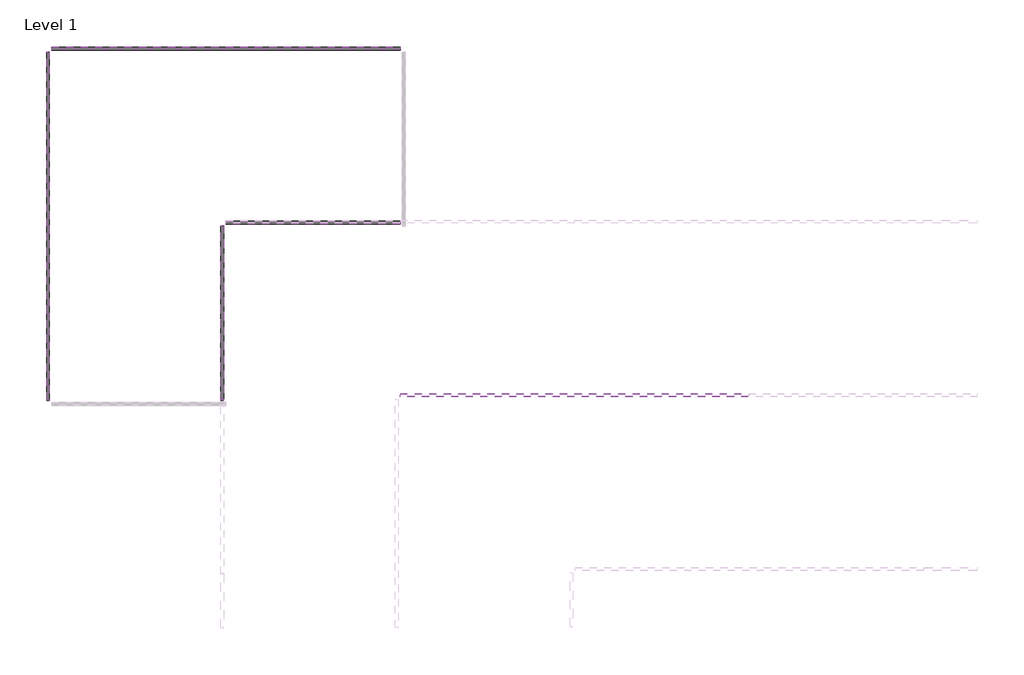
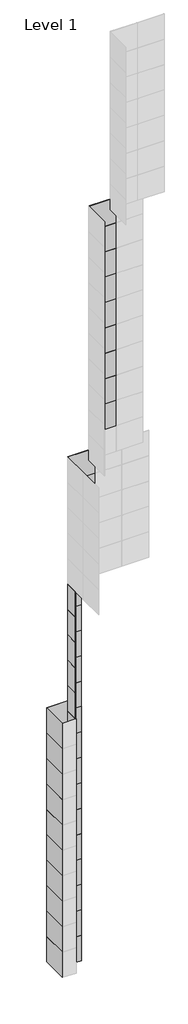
# One storey, part 8 of 15: 134 plates.
"""IFC4 building model written with IfcOpenShell, lengths in millimetres."""

from ifc_helpers import new_model, si_unit, origin, place, context, project, spatial, transform, mapped, element, save
from components import system_panel_glazed_9c75bc08, system_panel_glazed_0a0842ec, system_panel_glazed_aa64d645

model = new_model("IFC4")

# Units and contexts
model_context = context("Model", 3, world=origin())
ifc_project = project(units=[si_unit("LENGTHUNIT", "METRE", prefix="MILLI")], contexts=[model_context])

# Site, building, storey
site = spatial("IfcSite", under=ifc_project)
building = spatial("IfcBuilding", under=site)
storey = spatial("IfcBuildingStorey", under=building, Name="Level 1", Elevation=0.0)

# Plates
placement = place(None, origin())
system_panel_glazed_shape = system_panel_glazed_9c75bc08(model_context)
element("IfcPlate", 1, ObjectType="System Panel : Glazed", at=placement, inside=storey, context=model_context, shape_type="MappedRepresentation", body=[
    mapped(system_panel_glazed_shape, transform((-20839.4161695, 8735.9495511, 0.0), x_axis=(0.0, -1.0, 0.0), y_axis=(1.0, 0.0, 0.0), z_axis=(0.0, 0.0, 1.0))),
])
element("IfcPlate", 2, ObjectType="System Panel : Glazed", at=placement, inside=storey, context=model_context, shape_type="MappedRepresentation", body=[
    mapped(system_panel_glazed_shape, transform((-20839.4161695, 8735.9495511, 3048.0), x_axis=(0.0, -1.0, 0.0), y_axis=(1.0, 0.0, 0.0), z_axis=(0.0, 0.0, 1.0))),
])
element("IfcPlate", 3, ObjectType="System Panel : Glazed", at=placement, inside=storey, context=model_context, shape_type="MappedRepresentation", body=[
    mapped(system_panel_glazed_shape, transform((-20839.4161695, 8735.9495511, 6096.0), x_axis=(0.0, -1.0, 0.0), y_axis=(1.0, 0.0, 0.0), z_axis=(0.0, 0.0, 1.0))),
])
element("IfcPlate", 4, ObjectType="System Panel : Glazed", at=placement, inside=storey, context=model_context, shape_type="MappedRepresentation", body=[
    mapped(system_panel_glazed_shape, transform((-20839.4161695, 8735.9495511, 9144.0), x_axis=(0.0, -1.0, 0.0), y_axis=(1.0, 0.0, 0.0), z_axis=(0.0, 0.0, 1.0))),
])
element("IfcPlate", 5, ObjectType="System Panel : Glazed", at=placement, inside=storey, context=model_context, shape_type="MappedRepresentation", body=[
    mapped(system_panel_glazed_shape, transform((-20839.4161695, 8735.9495511, 12192.0), x_axis=(0.0, -1.0, 0.0), y_axis=(1.0, 0.0, 0.0), z_axis=(0.0, 0.0, 1.0))),
])
element("IfcPlate", 6, ObjectType="System Panel : Glazed", at=placement, inside=storey, context=model_context, shape_type="MappedRepresentation", body=[
    mapped(system_panel_glazed_shape, transform((-20839.4161695, 8735.9495511, 15240.0), x_axis=(0.0, -1.0, 0.0), y_axis=(1.0, 0.0, 0.0), z_axis=(0.0, 0.0, 1.0))),
])
element("IfcPlate", 7, ObjectType="System Panel : Glazed", at=placement, inside=storey, context=model_context, shape_type="MappedRepresentation", body=[
    mapped(system_panel_glazed_shape, transform((-20839.4161695, 8735.9495511, 18288.0), x_axis=(0.0, -1.0, 0.0), y_axis=(1.0, 0.0, 0.0), z_axis=(0.0, 0.0, 1.0))),
])
element("IfcPlate", 8, ObjectType="System Panel : Glazed", at=placement, inside=storey, context=model_context, shape_type="MappedRepresentation", body=[
    mapped(system_panel_glazed_shape, transform((-20839.4161695, 8735.9495511, 21336.0), x_axis=(0.0, -1.0, 0.0), y_axis=(1.0, 0.0, 0.0), z_axis=(0.0, 0.0, 1.0))),
])
element("IfcPlate", 9, ObjectType="System Panel : Glazed", at=placement, inside=storey, context=model_context, shape_type="MappedRepresentation", body=[
    mapped(system_panel_glazed_shape, transform((-20839.4161695, 8735.9495511, 24384.0), x_axis=(0.0, -1.0, 0.0), y_axis=(1.0, 0.0, 0.0), z_axis=(0.0, 0.0, 1.0))),
])
element("IfcPlate", 10, ObjectType="System Panel : Glazed", at=placement, inside=storey, context=model_context, shape_type="MappedRepresentation", body=[
    mapped(system_panel_glazed_shape, transform((-20839.4161695, 8735.9495511, 27432.0), x_axis=(0.0, -1.0, 0.0), y_axis=(1.0, 0.0, 0.0), z_axis=(0.0, 0.0, 1.0))),
])
element("IfcPlate", 11, ObjectType="System Panel : Glazed", at=placement, inside=storey, context=model_context, shape_type="MappedRepresentation", body=[
    mapped(system_panel_glazed_shape, transform((-20839.4161695, 8735.9495511, 30480.0), x_axis=(0.0, -1.0, 0.0), y_axis=(1.0, 0.0, 0.0), z_axis=(0.0, 0.0, 1.0))),
])
element("IfcPlate", 12, ObjectType="System Panel : Glazed", at=placement, inside=storey, context=model_context, shape_type="MappedRepresentation", body=[
    mapped(system_panel_glazed_shape, transform((-20839.4161695, 8735.9495511, 33528.0), x_axis=(0.0, -1.0, 0.0), y_axis=(1.0, 0.0, 0.0), z_axis=(0.0, 0.0, 1.0))),
])
element("IfcPlate", 13, ObjectType="System Panel : Glazed", at=placement, inside=storey, context=model_context, shape_type="MappedRepresentation", body=[
    mapped(system_panel_glazed_shape, transform((-20839.4161695, 8735.9495511, 36576.0), x_axis=(0.0, -1.0, 0.0), y_axis=(1.0, 0.0, 0.0), z_axis=(0.0, 0.0, 1.0))),
])
element("IfcPlate", 14, ObjectType="System Panel : Glazed", at=placement, inside=storey, context=model_context, shape_type="MappedRepresentation", body=[
    mapped(system_panel_glazed_shape, transform((-20839.4161695, 8735.9495511, 39624.0), x_axis=(0.0, -1.0, 0.0), y_axis=(1.0, 0.0, 0.0), z_axis=(0.0, 0.0, 1.0))),
])
element("IfcPlate", 15, ObjectType="System Panel : Glazed", at=placement, inside=storey, context=model_context, shape_type="MappedRepresentation", body=[
    mapped(system_panel_glazed_shape, transform((-20839.4161695, 8735.9495511, 42672.0), x_axis=(0.0, -1.0, 0.0), y_axis=(1.0, 0.0, 0.0), z_axis=(0.0, 0.0, 1.0))),
])
element("IfcPlate", 16, ObjectType="System Panel : Glazed", at=placement, inside=storey, context=model_context, shape_type="MappedRepresentation", body=[
    mapped(system_panel_glazed_shape, transform((-20077.4161695, 9497.9495511, 0.0), x_axis=(-1.0, 0.0, 0.0), y_axis=(0.0, -1.0, 0.0), z_axis=(0.0, 0.0, 1.0))),
])
element("IfcPlate", 17, ObjectType="System Panel : Glazed", at=placement, inside=storey, context=model_context, shape_type="MappedRepresentation", body=[
    mapped(system_panel_glazed_shape, transform((-20077.4161695, 9497.9495511, 3048.0), x_axis=(-1.0, 0.0, 0.0), y_axis=(0.0, -1.0, 0.0), z_axis=(0.0, 0.0, 1.0))),
])
element("IfcPlate", 18, ObjectType="System Panel : Glazed", at=placement, inside=storey, context=model_context, shape_type="MappedRepresentation", body=[
    mapped(system_panel_glazed_shape, transform((-20077.4161695, 9497.9495511, 6096.0), x_axis=(-1.0, 0.0, 0.0), y_axis=(0.0, -1.0, 0.0), z_axis=(0.0, 0.0, 1.0))),
])
element("IfcPlate", 19, ObjectType="System Panel : Glazed", at=placement, inside=storey, context=model_context, shape_type="MappedRepresentation", body=[
    mapped(system_panel_glazed_shape, transform((-20077.4161695, 9497.9495511, 9144.0), x_axis=(-1.0, 0.0, 0.0), y_axis=(0.0, -1.0, 0.0), z_axis=(0.0, 0.0, 1.0))),
])
element("IfcPlate", 20, ObjectType="System Panel : Glazed", at=placement, inside=storey, context=model_context, shape_type="MappedRepresentation", body=[
    mapped(system_panel_glazed_shape, transform((-20077.4161695, 9497.9495511, 12192.0), x_axis=(-1.0, 0.0, 0.0), y_axis=(0.0, -1.0, 0.0), z_axis=(0.0, 0.0, 1.0))),
])
element("IfcPlate", 21, ObjectType="System Panel : Glazed", at=placement, inside=storey, context=model_context, shape_type="MappedRepresentation", body=[
    mapped(system_panel_glazed_shape, transform((-20077.4161695, 9497.9495511, 15240.0), x_axis=(-1.0, 0.0, 0.0), y_axis=(0.0, -1.0, 0.0), z_axis=(0.0, 0.0, 1.0))),
])
element("IfcPlate", 22, ObjectType="System Panel : Glazed", at=placement, inside=storey, context=model_context, shape_type="MappedRepresentation", body=[
    mapped(system_panel_glazed_shape, transform((-20077.4161695, 9497.9495511, 18288.0), x_axis=(-1.0, 0.0, 0.0), y_axis=(0.0, -1.0, 0.0), z_axis=(0.0, 0.0, 1.0))),
])
element("IfcPlate", 23, ObjectType="System Panel : Glazed", at=placement, inside=storey, context=model_context, shape_type="MappedRepresentation", body=[
    mapped(system_panel_glazed_shape, transform((-20077.4161695, 9497.9495511, 21336.0), x_axis=(-1.0, 0.0, 0.0), y_axis=(0.0, -1.0, 0.0), z_axis=(0.0, 0.0, 1.0))),
])
element("IfcPlate", 24, ObjectType="System Panel : Glazed", at=placement, inside=storey, context=model_context, shape_type="MappedRepresentation", body=[
    mapped(system_panel_glazed_shape, transform((-20077.4161695, 9497.9495511, 24384.0), x_axis=(-1.0, 0.0, 0.0), y_axis=(0.0, -1.0, 0.0), z_axis=(0.0, 0.0, 1.0))),
])
element("IfcPlate", 25, ObjectType="System Panel : Glazed", at=placement, inside=storey, context=model_context, shape_type="MappedRepresentation", body=[
    mapped(system_panel_glazed_shape, transform((-20077.4161695, 9497.9495511, 27432.0), x_axis=(-1.0, 0.0, 0.0), y_axis=(0.0, -1.0, 0.0), z_axis=(0.0, 0.0, 1.0))),
])
element("IfcPlate", 26, ObjectType="System Panel : Glazed", at=placement, inside=storey, context=model_context, shape_type="MappedRepresentation", body=[
    mapped(system_panel_glazed_shape, transform((-20077.4161695, 9497.9495511, 30480.0), x_axis=(-1.0, 0.0, 0.0), y_axis=(0.0, -1.0, 0.0), z_axis=(0.0, 0.0, 1.0))),
])
element("IfcPlate", 27, ObjectType="System Panel : Glazed", at=placement, inside=storey, context=model_context, shape_type="MappedRepresentation", body=[
    mapped(system_panel_glazed_shape, transform((-20077.4161695, 9497.9495511, 33528.0), x_axis=(-1.0, 0.0, 0.0), y_axis=(0.0, -1.0, 0.0), z_axis=(0.0, 0.0, 1.0))),
])
element("IfcPlate", 28, ObjectType="System Panel : Glazed", at=placement, inside=storey, context=model_context, shape_type="MappedRepresentation", body=[
    mapped(system_panel_glazed_shape, transform((-20077.4161695, 9497.9495511, 36576.0), x_axis=(-1.0, 0.0, 0.0), y_axis=(0.0, -1.0, 0.0), z_axis=(0.0, 0.0, 1.0))),
])
element("IfcPlate", 29, ObjectType="System Panel : Glazed", at=placement, inside=storey, context=model_context, shape_type="MappedRepresentation", body=[
    mapped(system_panel_glazed_shape, transform((-20077.4161695, 9497.9495511, 39624.0), x_axis=(-1.0, 0.0, 0.0), y_axis=(0.0, -1.0, 0.0), z_axis=(0.0, 0.0, 1.0))),
])
element("IfcPlate", 30, ObjectType="System Panel : Glazed", at=placement, inside=storey, context=model_context, shape_type="MappedRepresentation", body=[
    mapped(system_panel_glazed_shape, transform((-20077.4161695, 9497.9495511, 42672.0), x_axis=(-1.0, 0.0, 0.0), y_axis=(0.0, -1.0, 0.0), z_axis=(0.0, 0.0, 1.0))),
])
element("IfcPlate", 31, ObjectType="System Panel : Glazed", at=placement, inside=storey, context=model_context, shape_type="MappedRepresentation", body=[
    mapped(system_panel_glazed_shape, transform((-20077.4161695, 9497.9495511, 0.0), x_axis=(-1.0, 0.0, 0.0), y_axis=(0.0, -1.0, 0.0), z_axis=(0.0, 0.0, 1.0))),
])
element("IfcPlate", 32, ObjectType="System Panel : Glazed", at=placement, inside=storey, context=model_context, shape_type="MappedRepresentation", body=[
    mapped(system_panel_glazed_shape, transform((-20077.4161695, 9497.9495511, 3048.0), x_axis=(-1.0, 0.0, 0.0), y_axis=(0.0, -1.0, 0.0), z_axis=(0.0, 0.0, 1.0))),
])
element("IfcPlate", 33, ObjectType="System Panel : Glazed", at=placement, inside=storey, context=model_context, shape_type="MappedRepresentation", body=[
    mapped(system_panel_glazed_shape, transform((-20077.4161695, 9497.9495511, 6096.0), x_axis=(-1.0, 0.0, 0.0), y_axis=(0.0, -1.0, 0.0), z_axis=(0.0, 0.0, 1.0))),
])
element("IfcPlate", 34, ObjectType="System Panel : Glazed", at=placement, inside=storey, context=model_context, shape_type="MappedRepresentation", body=[
    mapped(system_panel_glazed_shape, transform((-20077.4161695, 9497.9495511, 9144.0), x_axis=(-1.0, 0.0, 0.0), y_axis=(0.0, -1.0, 0.0), z_axis=(0.0, 0.0, 1.0))),
])
element("IfcPlate", 35, ObjectType="System Panel : Glazed", at=placement, inside=storey, context=model_context, shape_type="MappedRepresentation", body=[
    mapped(system_panel_glazed_shape, transform((-20077.4161695, 9497.9495511, 12192.0), x_axis=(-1.0, 0.0, 0.0), y_axis=(0.0, -1.0, 0.0), z_axis=(0.0, 0.0, 1.0))),
])
element("IfcPlate", 36, ObjectType="System Panel : Glazed", at=placement, inside=storey, context=model_context, shape_type="MappedRepresentation", body=[
    mapped(system_panel_glazed_shape, transform((-20077.4161695, 9497.9495511, 15240.0), x_axis=(-1.0, 0.0, 0.0), y_axis=(0.0, -1.0, 0.0), z_axis=(0.0, 0.0, 1.0))),
])
element("IfcPlate", 37, ObjectType="System Panel : Glazed", at=placement, inside=storey, context=model_context, shape_type="MappedRepresentation", body=[
    mapped(system_panel_glazed_shape, transform((-20077.4161695, 9497.9495511, 18288.0), x_axis=(-1.0, 0.0, 0.0), y_axis=(0.0, -1.0, 0.0), z_axis=(0.0, 0.0, 1.0))),
])
element("IfcPlate", 38, ObjectType="System Panel : Glazed", at=placement, inside=storey, context=model_context, shape_type="MappedRepresentation", body=[
    mapped(system_panel_glazed_shape, transform((-20077.4161695, 9497.9495511, 21336.0), x_axis=(-1.0, 0.0, 0.0), y_axis=(0.0, -1.0, 0.0), z_axis=(0.0, 0.0, 1.0))),
])
element("IfcPlate", 39, ObjectType="System Panel : Glazed", at=placement, inside=storey, context=model_context, shape_type="MappedRepresentation", body=[
    mapped(system_panel_glazed_shape, transform((-20077.4161695, 9497.9495511, 24384.0), x_axis=(-1.0, 0.0, 0.0), y_axis=(0.0, -1.0, 0.0), z_axis=(0.0, 0.0, 1.0))),
])
element("IfcPlate", 40, ObjectType="System Panel : Glazed", at=placement, inside=storey, context=model_context, shape_type="MappedRepresentation", body=[
    mapped(system_panel_glazed_shape, transform((-20077.4161695, 9497.9495511, 27432.0), x_axis=(-1.0, 0.0, 0.0), y_axis=(0.0, -1.0, 0.0), z_axis=(0.0, 0.0, 1.0))),
])
element("IfcPlate", 41, ObjectType="System Panel : Glazed", at=placement, inside=storey, context=model_context, shape_type="MappedRepresentation", body=[
    mapped(system_panel_glazed_shape, transform((-20077.4161695, 9497.9495511, 30480.0), x_axis=(-1.0, 0.0, 0.0), y_axis=(0.0, -1.0, 0.0), z_axis=(0.0, 0.0, 1.0))),
])
element("IfcPlate", 42, ObjectType="System Panel : Glazed", at=placement, inside=storey, context=model_context, shape_type="MappedRepresentation", body=[
    mapped(system_panel_glazed_shape, transform((-20077.4161695, 9497.9495511, 33528.0), x_axis=(-1.0, 0.0, 0.0), y_axis=(0.0, -1.0, 0.0), z_axis=(0.0, 0.0, 1.0))),
])
element("IfcPlate", 43, ObjectType="System Panel : Glazed", at=placement, inside=storey, context=model_context, shape_type="MappedRepresentation", body=[
    mapped(system_panel_glazed_shape, transform((-20077.4161695, 9497.9495511, 36576.0), x_axis=(-1.0, 0.0, 0.0), y_axis=(0.0, -1.0, 0.0), z_axis=(0.0, 0.0, 1.0))),
])
element("IfcPlate", 44, ObjectType="System Panel : Glazed", at=placement, inside=storey, context=model_context, shape_type="MappedRepresentation", body=[
    mapped(system_panel_glazed_shape, transform((-20077.4161695, 9497.9495511, 39624.0), x_axis=(-1.0, 0.0, 0.0), y_axis=(0.0, -1.0, 0.0), z_axis=(0.0, 0.0, 1.0))),
])
element("IfcPlate", 45, ObjectType="System Panel : Glazed", at=placement, inside=storey, context=model_context, shape_type="MappedRepresentation", body=[
    mapped(system_panel_glazed_shape, transform((-20077.4161695, 9497.9495511, 42672.0), x_axis=(-1.0, 0.0, 0.0), y_axis=(0.0, -1.0, 0.0), z_axis=(0.0, 0.0, 1.0))),
])
element("IfcPlate", 46, ObjectType="System Panel : Glazed", at=placement, inside=storey, context=model_context, shape_type="MappedRepresentation", body=[
    mapped(system_panel_glazed_shape, transform((-20839.4161695, 8735.9495511, 0.0), x_axis=(0.0, -1.0, 0.0), y_axis=(1.0, 0.0, 0.0), z_axis=(0.0, 0.0, 1.0))),
])
element("IfcPlate", 47, ObjectType="System Panel : Glazed", at=placement, inside=storey, context=model_context, shape_type="MappedRepresentation", body=[
    mapped(system_panel_glazed_shape, transform((-20839.4161695, 8735.9495511, 3048.0), x_axis=(0.0, -1.0, 0.0), y_axis=(1.0, 0.0, 0.0), z_axis=(0.0, 0.0, 1.0))),
])
element("IfcPlate", 48, ObjectType="System Panel : Glazed", at=placement, inside=storey, context=model_context, shape_type="MappedRepresentation", body=[
    mapped(system_panel_glazed_shape, transform((-20839.4161695, 8735.9495511, 6096.0), x_axis=(0.0, -1.0, 0.0), y_axis=(1.0, 0.0, 0.0), z_axis=(0.0, 0.0, 1.0))),
])
element("IfcPlate", 49, ObjectType="System Panel : Glazed", at=placement, inside=storey, context=model_context, shape_type="MappedRepresentation", body=[
    mapped(system_panel_glazed_shape, transform((-20839.4161695, 8735.9495511, 9144.0), x_axis=(0.0, -1.0, 0.0), y_axis=(1.0, 0.0, 0.0), z_axis=(0.0, 0.0, 1.0))),
])
element("IfcPlate", 50, ObjectType="System Panel : Glazed", at=placement, inside=storey, context=model_context, shape_type="MappedRepresentation", body=[
    mapped(system_panel_glazed_shape, transform((-20839.4161695, 8735.9495511, 12192.0), x_axis=(0.0, -1.0, 0.0), y_axis=(1.0, 0.0, 0.0), z_axis=(0.0, 0.0, 1.0))),
])
element("IfcPlate", 51, ObjectType="System Panel : Glazed", at=placement, inside=storey, context=model_context, shape_type="MappedRepresentation", body=[
    mapped(system_panel_glazed_shape, transform((-20839.4161695, 8735.9495511, 15240.0), x_axis=(0.0, -1.0, 0.0), y_axis=(1.0, 0.0, 0.0), z_axis=(0.0, 0.0, 1.0))),
])
element("IfcPlate", 52, ObjectType="System Panel : Glazed", at=placement, inside=storey, context=model_context, shape_type="MappedRepresentation", body=[
    mapped(system_panel_glazed_shape, transform((-20839.4161695, 8735.9495511, 18288.0), x_axis=(0.0, -1.0, 0.0), y_axis=(1.0, 0.0, 0.0), z_axis=(0.0, 0.0, 1.0))),
])
element("IfcPlate", 53, ObjectType="System Panel : Glazed", at=placement, inside=storey, context=model_context, shape_type="MappedRepresentation", body=[
    mapped(system_panel_glazed_shape, transform((-20839.4161695, 8735.9495511, 21336.0), x_axis=(0.0, -1.0, 0.0), y_axis=(1.0, 0.0, 0.0), z_axis=(0.0, 0.0, 1.0))),
])
element("IfcPlate", 54, ObjectType="System Panel : Glazed", at=placement, inside=storey, context=model_context, shape_type="MappedRepresentation", body=[
    mapped(system_panel_glazed_shape, transform((-20839.4161695, 8735.9495511, 24384.0), x_axis=(0.0, -1.0, 0.0), y_axis=(1.0, 0.0, 0.0), z_axis=(0.0, 0.0, 1.0))),
])
element("IfcPlate", 55, ObjectType="System Panel : Glazed", at=placement, inside=storey, context=model_context, shape_type="MappedRepresentation", body=[
    mapped(system_panel_glazed_shape, transform((-20839.4161695, 8735.9495511, 27432.0), x_axis=(0.0, -1.0, 0.0), y_axis=(1.0, 0.0, 0.0), z_axis=(0.0, 0.0, 1.0))),
])
element("IfcPlate", 56, ObjectType="System Panel : Glazed", at=placement, inside=storey, context=model_context, shape_type="MappedRepresentation", body=[
    mapped(system_panel_glazed_shape, transform((-20839.4161695, 8735.9495511, 30480.0), x_axis=(0.0, -1.0, 0.0), y_axis=(1.0, 0.0, 0.0), z_axis=(0.0, 0.0, 1.0))),
])
element("IfcPlate", 57, ObjectType="System Panel : Glazed", at=placement, inside=storey, context=model_context, shape_type="MappedRepresentation", body=[
    mapped(system_panel_glazed_shape, transform((-20839.4161695, 8735.9495511, 33528.0), x_axis=(0.0, -1.0, 0.0), y_axis=(1.0, 0.0, 0.0), z_axis=(0.0, 0.0, 1.0))),
])
element("IfcPlate", 58, ObjectType="System Panel : Glazed", at=placement, inside=storey, context=model_context, shape_type="MappedRepresentation", body=[
    mapped(system_panel_glazed_shape, transform((-20839.4161695, 8735.9495511, 36576.0), x_axis=(0.0, -1.0, 0.0), y_axis=(1.0, 0.0, 0.0), z_axis=(0.0, 0.0, 1.0))),
])
element("IfcPlate", 59, ObjectType="System Panel : Glazed", at=placement, inside=storey, context=model_context, shape_type="MappedRepresentation", body=[
    mapped(system_panel_glazed_shape, transform((-20839.4161695, 8735.9495511, 39624.0), x_axis=(0.0, -1.0, 0.0), y_axis=(1.0, 0.0, 0.0), z_axis=(0.0, 0.0, 1.0))),
])
element("IfcPlate", 60, ObjectType="System Panel : Glazed", at=placement, inside=storey, context=model_context, shape_type="MappedRepresentation", body=[
    mapped(system_panel_glazed_shape, transform((-20839.4161695, 8735.9495511, 42672.0), x_axis=(0.0, -1.0, 0.0), y_axis=(1.0, 0.0, 0.0), z_axis=(0.0, 0.0, 1.0))),
])
element("IfcPlate", 61, ObjectType="System Panel : Glazed", at=placement, inside=storey, context=model_context, shape_type="MappedRepresentation", body=[
    mapped(system_panel_glazed_shape, transform((-20077.4161695, 9497.9495511, 0.0), x_axis=(-1.0, 0.0, 0.0), y_axis=(0.0, -1.0, 0.0), z_axis=(0.0, 0.0, 1.0))),
])
element("IfcPlate", 62, ObjectType="System Panel : Glazed", at=placement, inside=storey, context=model_context, shape_type="MappedRepresentation", body=[
    mapped(system_panel_glazed_shape, transform((-20077.4161695, 9497.9495511, 3048.0), x_axis=(-1.0, 0.0, 0.0), y_axis=(0.0, -1.0, 0.0), z_axis=(0.0, 0.0, 1.0))),
])
element("IfcPlate", 63, ObjectType="System Panel : Glazed", at=placement, inside=storey, context=model_context, shape_type="MappedRepresentation", body=[
    mapped(system_panel_glazed_shape, transform((-20077.4161695, 9497.9495511, 6096.0), x_axis=(-1.0, 0.0, 0.0), y_axis=(0.0, -1.0, 0.0), z_axis=(0.0, 0.0, 1.0))),
])
element("IfcPlate", 64, ObjectType="System Panel : Glazed", at=placement, inside=storey, context=model_context, shape_type="MappedRepresentation", body=[
    mapped(system_panel_glazed_shape, transform((-20077.4161695, 9497.9495511, 9144.0), x_axis=(-1.0, 0.0, 0.0), y_axis=(0.0, -1.0, 0.0), z_axis=(0.0, 0.0, 1.0))),
])
element("IfcPlate", 65, ObjectType="System Panel : Glazed", at=placement, inside=storey, context=model_context, shape_type="MappedRepresentation", body=[
    mapped(system_panel_glazed_shape, transform((-20077.4161695, 9497.9495511, 12192.0), x_axis=(-1.0, 0.0, 0.0), y_axis=(0.0, -1.0, 0.0), z_axis=(0.0, 0.0, 1.0))),
])
element("IfcPlate", 66, ObjectType="System Panel : Glazed", at=placement, inside=storey, context=model_context, shape_type="MappedRepresentation", body=[
    mapped(system_panel_glazed_shape, transform((-20077.4161695, 9497.9495511, 15240.0), x_axis=(-1.0, 0.0, 0.0), y_axis=(0.0, -1.0, 0.0), z_axis=(0.0, 0.0, 1.0))),
])
element("IfcPlate", 67, ObjectType="System Panel : Glazed", at=placement, inside=storey, context=model_context, shape_type="MappedRepresentation", body=[
    mapped(system_panel_glazed_shape, transform((-20077.4161695, 9497.9495511, 18288.0), x_axis=(-1.0, 0.0, 0.0), y_axis=(0.0, -1.0, 0.0), z_axis=(0.0, 0.0, 1.0))),
])
element("IfcPlate", 68, ObjectType="System Panel : Glazed", at=placement, inside=storey, context=model_context, shape_type="MappedRepresentation", body=[
    mapped(system_panel_glazed_shape, transform((-20077.4161695, 9497.9495511, 21336.0), x_axis=(-1.0, 0.0, 0.0), y_axis=(0.0, -1.0, 0.0), z_axis=(0.0, 0.0, 1.0))),
])
element("IfcPlate", 69, ObjectType="System Panel : Glazed", at=placement, inside=storey, context=model_context, shape_type="MappedRepresentation", body=[
    mapped(system_panel_glazed_shape, transform((-20077.4161695, 9497.9495511, 24384.0), x_axis=(-1.0, 0.0, 0.0), y_axis=(0.0, -1.0, 0.0), z_axis=(0.0, 0.0, 1.0))),
])
element("IfcPlate", 70, ObjectType="System Panel : Glazed", at=placement, inside=storey, context=model_context, shape_type="MappedRepresentation", body=[
    mapped(system_panel_glazed_shape, transform((-20077.4161695, 9497.9495511, 27432.0), x_axis=(-1.0, 0.0, 0.0), y_axis=(0.0, -1.0, 0.0), z_axis=(0.0, 0.0, 1.0))),
])
element("IfcPlate", 71, ObjectType="System Panel : Glazed", at=placement, inside=storey, context=model_context, shape_type="MappedRepresentation", body=[
    mapped(system_panel_glazed_shape, transform((-20077.4161695, 9497.9495511, 30480.0), x_axis=(-1.0, 0.0, 0.0), y_axis=(0.0, -1.0, 0.0), z_axis=(0.0, 0.0, 1.0))),
])
element("IfcPlate", 72, ObjectType="System Panel : Glazed", at=placement, inside=storey, context=model_context, shape_type="MappedRepresentation", body=[
    mapped(system_panel_glazed_shape, transform((-20077.4161695, 9497.9495511, 33528.0), x_axis=(-1.0, 0.0, 0.0), y_axis=(0.0, -1.0, 0.0), z_axis=(0.0, 0.0, 1.0))),
])
element("IfcPlate", 73, ObjectType="System Panel : Glazed", at=placement, inside=storey, context=model_context, shape_type="MappedRepresentation", body=[
    mapped(system_panel_glazed_shape, transform((-20077.4161695, 9497.9495511, 36576.0), x_axis=(-1.0, 0.0, 0.0), y_axis=(0.0, -1.0, 0.0), z_axis=(0.0, 0.0, 1.0))),
])
element("IfcPlate", 74, ObjectType="System Panel : Glazed", at=placement, inside=storey, context=model_context, shape_type="MappedRepresentation", body=[
    mapped(system_panel_glazed_shape, transform((-20077.4161695, 9497.9495511, 39624.0), x_axis=(-1.0, 0.0, 0.0), y_axis=(0.0, -1.0, 0.0), z_axis=(0.0, 0.0, 1.0))),
])
element("IfcPlate", 75, ObjectType="System Panel : Glazed", at=placement, inside=storey, context=model_context, shape_type="MappedRepresentation", body=[
    mapped(system_panel_glazed_shape, transform((-20077.4161695, 9497.9495511, 42672.0), x_axis=(-1.0, 0.0, 0.0), y_axis=(0.0, -1.0, 0.0), z_axis=(0.0, 0.0, 1.0))),
])
system_panel_glazed_2_shape = system_panel_glazed_0a0842ec(model_context)
element("IfcPlate", 76, ObjectType="System Panel : Glazed", at=placement, inside=storey, context=model_context, shape_type="MappedRepresentation", body=[
    mapped(system_panel_glazed_2_shape, transform((-19315.4161695, 9497.9495511, 45720.0), x_axis=(-1.0, 0.0, 0.0), y_axis=(0.0, -1.0, 0.0), z_axis=(0.0, 0.0, 1.0))),
])
element("IfcPlate", 77, ObjectType="System Panel : Glazed", at=placement, inside=storey, context=model_context, shape_type="MappedRepresentation", body=[
    mapped(system_panel_glazed_2_shape, transform((-19315.4161695, 9497.9495511, 45720.0), x_axis=(-1.0, 0.0, 0.0), y_axis=(0.0, -1.0, 0.0), z_axis=(0.0, 0.0, 1.0))),
])
system_panel_glazed_3_shape = system_panel_glazed_aa64d645(model_context)
element("IfcPlate", 78, ObjectType="System Panel : Glazed", at=placement, inside=storey, context=model_context, shape_type="MappedRepresentation", body=[
    mapped(system_panel_glazed_3_shape, transform((-19315.4161695, 9497.9495511, 48768.0), x_axis=(-1.0, 0.0, 0.0), y_axis=(0.0, -1.0, 0.0), z_axis=(0.0, 0.0, 1.0))),
])
element("IfcPlate", 79, ObjectType="System Panel : Glazed", at=placement, inside=storey, context=model_context, shape_type="MappedRepresentation", body=[
    mapped(system_panel_glazed_3_shape, transform((-19315.4161695, 9497.9495511, 51816.0), x_axis=(-1.0, 0.0, 0.0), y_axis=(0.0, -1.0, 0.0), z_axis=(0.0, 0.0, 1.0))),
])
element("IfcPlate", 80, ObjectType="System Panel : Glazed", at=placement, inside=storey, context=model_context, shape_type="MappedRepresentation", body=[
    mapped(system_panel_glazed_3_shape, transform((-19315.4161695, 9497.9495511, 54864.0), x_axis=(-1.0, 0.0, 0.0), y_axis=(0.0, -1.0, 0.0), z_axis=(0.0, 0.0, 1.0))),
])
element("IfcPlate", 81, ObjectType="System Panel : Glazed", at=placement, inside=storey, context=model_context, shape_type="MappedRepresentation", body=[
    mapped(system_panel_glazed_3_shape, transform((-19315.4161695, 9497.9495511, 57912.0), x_axis=(-1.0, 0.0, 0.0), y_axis=(0.0, -1.0, 0.0), z_axis=(0.0, 0.0, 1.0))),
])
element("IfcPlate", 82, ObjectType="System Panel : Glazed", at=placement, inside=storey, context=model_context, shape_type="MappedRepresentation", body=[
    mapped(system_panel_glazed_3_shape, transform((-17791.4161695, 7973.9495511, 64008.0), x_axis=(-1.0, 0.0, 0.0), y_axis=(0.0, -1.0, 0.0), z_axis=(0.0, 0.0, 1.0))),
])
element("IfcPlate", 83, ObjectType="System Panel : Glazed", at=placement, inside=storey, context=model_context, shape_type="MappedRepresentation", body=[
    mapped(system_panel_glazed_3_shape, transform((-17791.4161695, 7973.9495511, 67056.0), x_axis=(-1.0, 0.0, 0.0), y_axis=(0.0, -1.0, 0.0), z_axis=(0.0, 0.0, 1.0))),
])
element("IfcPlate", 84, ObjectType="System Panel : Glazed", at=placement, inside=storey, context=model_context, shape_type="MappedRepresentation", body=[
    mapped(system_panel_glazed_3_shape, transform((-17791.4161695, 7973.9495511, 70104.0), x_axis=(-1.0, 0.0, 0.0), y_axis=(0.0, -1.0, 0.0), z_axis=(0.0, 0.0, 1.0))),
])
element("IfcPlate", 85, ObjectType="System Panel : Glazed", at=placement, inside=storey, context=model_context, shape_type="MappedRepresentation", body=[
    mapped(system_panel_glazed_3_shape, transform((-17791.4161695, 7973.9495511, 73152.0), x_axis=(-1.0, 0.0, 0.0), y_axis=(0.0, -1.0, 0.0), z_axis=(0.0, 0.0, 1.0))),
])
element("IfcPlate", 86, ObjectType="System Panel : Glazed", at=placement, inside=storey, context=model_context, shape_type="MappedRepresentation", body=[
    mapped(system_panel_glazed_3_shape, transform((-17791.4161695, 7973.9495511, 76200.0), x_axis=(-1.0, 0.0, 0.0), y_axis=(0.0, -1.0, 0.0), z_axis=(0.0, 0.0, 1.0))),
])
element("IfcPlate", 87, ObjectType="System Panel : Glazed", at=placement, inside=storey, context=model_context, shape_type="MappedRepresentation", body=[
    mapped(system_panel_glazed_3_shape, transform((-17791.4161695, 7973.9495511, 79248.0), x_axis=(-1.0, 0.0, 0.0), y_axis=(0.0, -1.0, 0.0), z_axis=(0.0, 0.0, 1.0))),
])
element("IfcPlate", 88, ObjectType="System Panel : Glazed", at=placement, inside=storey, context=model_context, shape_type="MappedRepresentation", body=[
    mapped(system_panel_glazed_3_shape, transform((-17791.4161695, 7973.9495511, 82296.0), x_axis=(-1.0, 0.0, 0.0), y_axis=(0.0, -1.0, 0.0), z_axis=(0.0, 0.0, 1.0))),
])
element("IfcPlate", 89, ObjectType="System Panel : Glazed", at=placement, inside=storey, context=model_context, shape_type="MappedRepresentation", body=[
    mapped(system_panel_glazed_3_shape, transform((-17791.4161695, 7973.9495511, 85344.0), x_axis=(-1.0, 0.0, 0.0), y_axis=(0.0, -1.0, 0.0), z_axis=(0.0, 0.0, 1.0))),
])
element("IfcPlate", 90, ObjectType="System Panel : Glazed", at=placement, inside=storey, context=model_context, shape_type="MappedRepresentation", body=[
    mapped(system_panel_glazed_3_shape, transform((-17791.4161695, 7973.9495511, 88392.0), x_axis=(-1.0, 0.0, 0.0), y_axis=(0.0, -1.0, 0.0), z_axis=(0.0, 0.0, 1.0))),
])
element("IfcPlate", 91, ObjectType="System Panel : Glazed", at=placement, inside=storey, context=model_context, shape_type="MappedRepresentation", body=[
    mapped(system_panel_glazed_3_shape, transform((-19315.4161695, 9497.9495511, 48768.0), x_axis=(-1.0, 0.0, 0.0), y_axis=(0.0, -1.0, 0.0), z_axis=(0.0, 0.0, 1.0))),
])
element("IfcPlate", 92, ObjectType="System Panel : Glazed", at=placement, inside=storey, context=model_context, shape_type="MappedRepresentation", body=[
    mapped(system_panel_glazed_3_shape, transform((-19315.4161695, 9497.9495511, 51816.0), x_axis=(-1.0, 0.0, 0.0), y_axis=(0.0, -1.0, 0.0), z_axis=(0.0, 0.0, 1.0))),
])
element("IfcPlate", 93, ObjectType="System Panel : Glazed", at=placement, inside=storey, context=model_context, shape_type="MappedRepresentation", body=[
    mapped(system_panel_glazed_3_shape, transform((-19315.4161695, 9497.9495511, 54864.0), x_axis=(-1.0, 0.0, 0.0), y_axis=(0.0, -1.0, 0.0), z_axis=(0.0, 0.0, 1.0))),
])
element("IfcPlate", 94, ObjectType="System Panel : Glazed", at=placement, inside=storey, context=model_context, shape_type="MappedRepresentation", body=[
    mapped(system_panel_glazed_3_shape, transform((-19315.4161695, 9497.9495511, 57912.0), x_axis=(-1.0, 0.0, 0.0), y_axis=(0.0, -1.0, 0.0), z_axis=(0.0, 0.0, 1.0))),
])
element("IfcPlate", 95, ObjectType="System Panel : Glazed", at=placement, inside=storey, context=model_context, shape_type="MappedRepresentation", body=[
    mapped(system_panel_glazed_3_shape, transform((-22363.4161695, 9497.9495511, 0.0), x_axis=(0.0, -1.0, 0.0), y_axis=(1.0, 0.0, 0.0), z_axis=(0.0, 0.0, 1.0))),
])
element("IfcPlate", 96, ObjectType="System Panel : Glazed", at=placement, inside=storey, context=model_context, shape_type="MappedRepresentation", body=[
    mapped(system_panel_glazed_3_shape, transform((-22363.4161695, 9497.9495511, 3048.0), x_axis=(0.0, -1.0, 0.0), y_axis=(1.0, 0.0, 0.0), z_axis=(0.0, 0.0, 1.0))),
])
element("IfcPlate", 97, ObjectType="System Panel : Glazed", at=placement, inside=storey, context=model_context, shape_type="MappedRepresentation", body=[
    mapped(system_panel_glazed_3_shape, transform((-22363.4161695, 9497.9495511, 6096.0), x_axis=(0.0, -1.0, 0.0), y_axis=(1.0, 0.0, 0.0), z_axis=(0.0, 0.0, 1.0))),
])
element("IfcPlate", 98, ObjectType="System Panel : Glazed", at=placement, inside=storey, context=model_context, shape_type="MappedRepresentation", body=[
    mapped(system_panel_glazed_3_shape, transform((-22363.4161695, 9497.9495511, 9144.0), x_axis=(0.0, -1.0, 0.0), y_axis=(1.0, 0.0, 0.0), z_axis=(0.0, 0.0, 1.0))),
])
element("IfcPlate", 99, ObjectType="System Panel : Glazed", at=placement, inside=storey, context=model_context, shape_type="MappedRepresentation", body=[
    mapped(system_panel_glazed_3_shape, transform((-22363.4161695, 9497.9495511, 12192.0), x_axis=(0.0, -1.0, 0.0), y_axis=(1.0, 0.0, 0.0), z_axis=(0.0, 0.0, 1.0))),
])
element("IfcPlate", 100, ObjectType="System Panel : Glazed", at=placement, inside=storey, context=model_context, shape_type="MappedRepresentation", body=[
    mapped(system_panel_glazed_3_shape, transform((-22363.4161695, 9497.9495511, 15240.0), x_axis=(0.0, -1.0, 0.0), y_axis=(1.0, 0.0, 0.0), z_axis=(0.0, 0.0, 1.0))),
])
element("IfcPlate", 101, ObjectType="System Panel : Glazed", at=placement, inside=storey, context=model_context, shape_type="MappedRepresentation", body=[
    mapped(system_panel_glazed_3_shape, transform((-22363.4161695, 9497.9495511, 18288.0), x_axis=(0.0, -1.0, 0.0), y_axis=(1.0, 0.0, 0.0), z_axis=(0.0, 0.0, 1.0))),
])
element("IfcPlate", 102, ObjectType="System Panel : Glazed", at=placement, inside=storey, context=model_context, shape_type="MappedRepresentation", body=[
    mapped(system_panel_glazed_3_shape, transform((-22363.4161695, 9497.9495511, 21336.0), x_axis=(0.0, -1.0, 0.0), y_axis=(1.0, 0.0, 0.0), z_axis=(0.0, 0.0, 1.0))),
])
element("IfcPlate", 103, ObjectType="System Panel : Glazed", at=placement, inside=storey, context=model_context, shape_type="MappedRepresentation", body=[
    mapped(system_panel_glazed_3_shape, transform((-22363.4161695, 9497.9495511, 24384.0), x_axis=(0.0, -1.0, 0.0), y_axis=(1.0, 0.0, 0.0), z_axis=(0.0, 0.0, 1.0))),
])
element("IfcPlate", 104, ObjectType="System Panel : Glazed", at=placement, inside=storey, context=model_context, shape_type="MappedRepresentation", body=[
    mapped(system_panel_glazed_3_shape, transform((-22363.4161695, 9497.9495511, 27432.0), x_axis=(0.0, -1.0, 0.0), y_axis=(1.0, 0.0, 0.0), z_axis=(0.0, 0.0, 1.0))),
])
element("IfcPlate", 105, ObjectType="System Panel : Glazed", at=placement, inside=storey, context=model_context, shape_type="MappedRepresentation", body=[
    mapped(system_panel_glazed_3_shape, transform((-20839.4161695, 11021.9495511, 0.0), x_axis=(-1.0, 0.0, 0.0), y_axis=(0.0, -1.0, 0.0), z_axis=(0.0, 0.0, 1.0))),
])
element("IfcPlate", 106, ObjectType="System Panel : Glazed", at=placement, inside=storey, context=model_context, shape_type="MappedRepresentation", body=[
    mapped(system_panel_glazed_3_shape, transform((-20839.4161695, 11021.9495511, 3048.0), x_axis=(-1.0, 0.0, 0.0), y_axis=(0.0, -1.0, 0.0), z_axis=(0.0, 0.0, 1.0))),
])
element("IfcPlate", 107, ObjectType="System Panel : Glazed", at=placement, inside=storey, context=model_context, shape_type="MappedRepresentation", body=[
    mapped(system_panel_glazed_3_shape, transform((-20839.4161695, 11021.9495511, 6096.0), x_axis=(-1.0, 0.0, 0.0), y_axis=(0.0, -1.0, 0.0), z_axis=(0.0, 0.0, 1.0))),
])
element("IfcPlate", 108, ObjectType="System Panel : Glazed", at=placement, inside=storey, context=model_context, shape_type="MappedRepresentation", body=[
    mapped(system_panel_glazed_3_shape, transform((-20839.4161695, 11021.9495511, 9144.0), x_axis=(-1.0, 0.0, 0.0), y_axis=(0.0, -1.0, 0.0), z_axis=(0.0, 0.0, 1.0))),
])
element("IfcPlate", 109, ObjectType="System Panel : Glazed", at=placement, inside=storey, context=model_context, shape_type="MappedRepresentation", body=[
    mapped(system_panel_glazed_3_shape, transform((-20839.4161695, 11021.9495511, 12192.0), x_axis=(-1.0, 0.0, 0.0), y_axis=(0.0, -1.0, 0.0), z_axis=(0.0, 0.0, 1.0))),
])
element("IfcPlate", 110, ObjectType="System Panel : Glazed", at=placement, inside=storey, context=model_context, shape_type="MappedRepresentation", body=[
    mapped(system_panel_glazed_3_shape, transform((-20839.4161695, 11021.9495511, 15240.0), x_axis=(-1.0, 0.0, 0.0), y_axis=(0.0, -1.0, 0.0), z_axis=(0.0, 0.0, 1.0))),
])
element("IfcPlate", 111, ObjectType="System Panel : Glazed", at=placement, inside=storey, context=model_context, shape_type="MappedRepresentation", body=[
    mapped(system_panel_glazed_3_shape, transform((-20839.4161695, 11021.9495511, 18288.0), x_axis=(-1.0, 0.0, 0.0), y_axis=(0.0, -1.0, 0.0), z_axis=(0.0, 0.0, 1.0))),
])
element("IfcPlate", 112, ObjectType="System Panel : Glazed", at=placement, inside=storey, context=model_context, shape_type="MappedRepresentation", body=[
    mapped(system_panel_glazed_3_shape, transform((-20839.4161695, 11021.9495511, 21336.0), x_axis=(-1.0, 0.0, 0.0), y_axis=(0.0, -1.0, 0.0), z_axis=(0.0, 0.0, 1.0))),
])
element("IfcPlate", 113, ObjectType="System Panel : Glazed", at=placement, inside=storey, context=model_context, shape_type="MappedRepresentation", body=[
    mapped(system_panel_glazed_3_shape, transform((-20839.4161695, 11021.9495511, 24384.0), x_axis=(-1.0, 0.0, 0.0), y_axis=(0.0, -1.0, 0.0), z_axis=(0.0, 0.0, 1.0))),
])
element("IfcPlate", 114, ObjectType="System Panel : Glazed", at=placement, inside=storey, context=model_context, shape_type="MappedRepresentation", body=[
    mapped(system_panel_glazed_3_shape, transform((-20839.4161695, 11021.9495511, 27432.0), x_axis=(-1.0, 0.0, 0.0), y_axis=(0.0, -1.0, 0.0), z_axis=(0.0, 0.0, 1.0))),
])
element("IfcPlate", 115, ObjectType="System Panel : Glazed", at=placement, inside=storey, context=model_context, shape_type="MappedRepresentation", body=[
    mapped(system_panel_glazed_3_shape, transform((-20839.4161695, 11021.9495511, 0.0), x_axis=(-1.0, 0.0, 0.0), y_axis=(0.0, -1.0, 0.0), z_axis=(0.0, 0.0, 1.0))),
])
element("IfcPlate", 116, ObjectType="System Panel : Glazed", at=placement, inside=storey, context=model_context, shape_type="MappedRepresentation", body=[
    mapped(system_panel_glazed_3_shape, transform((-20839.4161695, 11021.9495511, 3048.0), x_axis=(-1.0, 0.0, 0.0), y_axis=(0.0, -1.0, 0.0), z_axis=(0.0, 0.0, 1.0))),
])
element("IfcPlate", 117, ObjectType="System Panel : Glazed", at=placement, inside=storey, context=model_context, shape_type="MappedRepresentation", body=[
    mapped(system_panel_glazed_3_shape, transform((-20839.4161695, 11021.9495511, 6096.0), x_axis=(-1.0, 0.0, 0.0), y_axis=(0.0, -1.0, 0.0), z_axis=(0.0, 0.0, 1.0))),
])
element("IfcPlate", 118, ObjectType="System Panel : Glazed", at=placement, inside=storey, context=model_context, shape_type="MappedRepresentation", body=[
    mapped(system_panel_glazed_3_shape, transform((-20839.4161695, 11021.9495511, 9144.0), x_axis=(-1.0, 0.0, 0.0), y_axis=(0.0, -1.0, 0.0), z_axis=(0.0, 0.0, 1.0))),
])
element("IfcPlate", 119, ObjectType="System Panel : Glazed", at=placement, inside=storey, context=model_context, shape_type="MappedRepresentation", body=[
    mapped(system_panel_glazed_3_shape, transform((-20839.4161695, 11021.9495511, 12192.0), x_axis=(-1.0, 0.0, 0.0), y_axis=(0.0, -1.0, 0.0), z_axis=(0.0, 0.0, 1.0))),
])
element("IfcPlate", 120, ObjectType="System Panel : Glazed", at=placement, inside=storey, context=model_context, shape_type="MappedRepresentation", body=[
    mapped(system_panel_glazed_3_shape, transform((-20839.4161695, 11021.9495511, 15240.0), x_axis=(-1.0, 0.0, 0.0), y_axis=(0.0, -1.0, 0.0), z_axis=(0.0, 0.0, 1.0))),
])
element("IfcPlate", 121, ObjectType="System Panel : Glazed", at=placement, inside=storey, context=model_context, shape_type="MappedRepresentation", body=[
    mapped(system_panel_glazed_3_shape, transform((-20839.4161695, 11021.9495511, 18288.0), x_axis=(-1.0, 0.0, 0.0), y_axis=(0.0, -1.0, 0.0), z_axis=(0.0, 0.0, 1.0))),
])
element("IfcPlate", 122, ObjectType="System Panel : Glazed", at=placement, inside=storey, context=model_context, shape_type="MappedRepresentation", body=[
    mapped(system_panel_glazed_3_shape, transform((-20839.4161695, 11021.9495511, 21336.0), x_axis=(-1.0, 0.0, 0.0), y_axis=(0.0, -1.0, 0.0), z_axis=(0.0, 0.0, 1.0))),
])
element("IfcPlate", 123, ObjectType="System Panel : Glazed", at=placement, inside=storey, context=model_context, shape_type="MappedRepresentation", body=[
    mapped(system_panel_glazed_3_shape, transform((-20839.4161695, 11021.9495511, 24384.0), x_axis=(-1.0, 0.0, 0.0), y_axis=(0.0, -1.0, 0.0), z_axis=(0.0, 0.0, 1.0))),
])
element("IfcPlate", 124, ObjectType="System Panel : Glazed", at=placement, inside=storey, context=model_context, shape_type="MappedRepresentation", body=[
    mapped(system_panel_glazed_3_shape, transform((-20839.4161695, 11021.9495511, 27432.0), x_axis=(-1.0, 0.0, 0.0), y_axis=(0.0, -1.0, 0.0), z_axis=(0.0, 0.0, 1.0))),
])
element("IfcPlate", 125, ObjectType="System Panel : Glazed", at=placement, inside=storey, context=model_context, shape_type="MappedRepresentation", body=[
    mapped(system_panel_glazed_3_shape, transform((-22363.4161695, 9497.9495511, 0.0), x_axis=(0.0, -1.0, 0.0), y_axis=(1.0, 0.0, 0.0), z_axis=(0.0, 0.0, 1.0))),
])
element("IfcPlate", 126, ObjectType="System Panel : Glazed", at=placement, inside=storey, context=model_context, shape_type="MappedRepresentation", body=[
    mapped(system_panel_glazed_3_shape, transform((-22363.4161695, 9497.9495511, 3048.0), x_axis=(0.0, -1.0, 0.0), y_axis=(1.0, 0.0, 0.0), z_axis=(0.0, 0.0, 1.0))),
])
element("IfcPlate", 127, ObjectType="System Panel : Glazed", at=placement, inside=storey, context=model_context, shape_type="MappedRepresentation", body=[
    mapped(system_panel_glazed_3_shape, transform((-22363.4161695, 9497.9495511, 6096.0), x_axis=(0.0, -1.0, 0.0), y_axis=(1.0, 0.0, 0.0), z_axis=(0.0, 0.0, 1.0))),
])
element("IfcPlate", 128, ObjectType="System Panel : Glazed", at=placement, inside=storey, context=model_context, shape_type="MappedRepresentation", body=[
    mapped(system_panel_glazed_3_shape, transform((-22363.4161695, 9497.9495511, 9144.0), x_axis=(0.0, -1.0, 0.0), y_axis=(1.0, 0.0, 0.0), z_axis=(0.0, 0.0, 1.0))),
])
element("IfcPlate", 129, ObjectType="System Panel : Glazed", at=placement, inside=storey, context=model_context, shape_type="MappedRepresentation", body=[
    mapped(system_panel_glazed_3_shape, transform((-22363.4161695, 9497.9495511, 12192.0), x_axis=(0.0, -1.0, 0.0), y_axis=(1.0, 0.0, 0.0), z_axis=(0.0, 0.0, 1.0))),
])
element("IfcPlate", 130, ObjectType="System Panel : Glazed", at=placement, inside=storey, context=model_context, shape_type="MappedRepresentation", body=[
    mapped(system_panel_glazed_3_shape, transform((-22363.4161695, 9497.9495511, 15240.0), x_axis=(0.0, -1.0, 0.0), y_axis=(1.0, 0.0, 0.0), z_axis=(0.0, 0.0, 1.0))),
])
element("IfcPlate", 131, ObjectType="System Panel : Glazed", at=placement, inside=storey, context=model_context, shape_type="MappedRepresentation", body=[
    mapped(system_panel_glazed_3_shape, transform((-22363.4161695, 9497.9495511, 18288.0), x_axis=(0.0, -1.0, 0.0), y_axis=(1.0, 0.0, 0.0), z_axis=(0.0, 0.0, 1.0))),
])
element("IfcPlate", 132, ObjectType="System Panel : Glazed", at=placement, inside=storey, context=model_context, shape_type="MappedRepresentation", body=[
    mapped(system_panel_glazed_3_shape, transform((-22363.4161695, 9497.9495511, 21336.0), x_axis=(0.0, -1.0, 0.0), y_axis=(1.0, 0.0, 0.0), z_axis=(0.0, 0.0, 1.0))),
])
element("IfcPlate", 133, ObjectType="System Panel : Glazed", at=placement, inside=storey, context=model_context, shape_type="MappedRepresentation", body=[
    mapped(system_panel_glazed_3_shape, transform((-22363.4161695, 9497.9495511, 24384.0), x_axis=(0.0, -1.0, 0.0), y_axis=(1.0, 0.0, 0.0), z_axis=(0.0, 0.0, 1.0))),
])
element("IfcPlate", 134, ObjectType="System Panel : Glazed", at=placement, inside=storey, context=model_context, shape_type="MappedRepresentation", body=[
    mapped(system_panel_glazed_3_shape, transform((-22363.4161695, 9497.9495511, 27432.0), x_axis=(0.0, -1.0, 0.0), y_axis=(1.0, 0.0, 0.0), z_axis=(0.0, 0.0, 1.0))),
])

save(model, "model.ifc")
